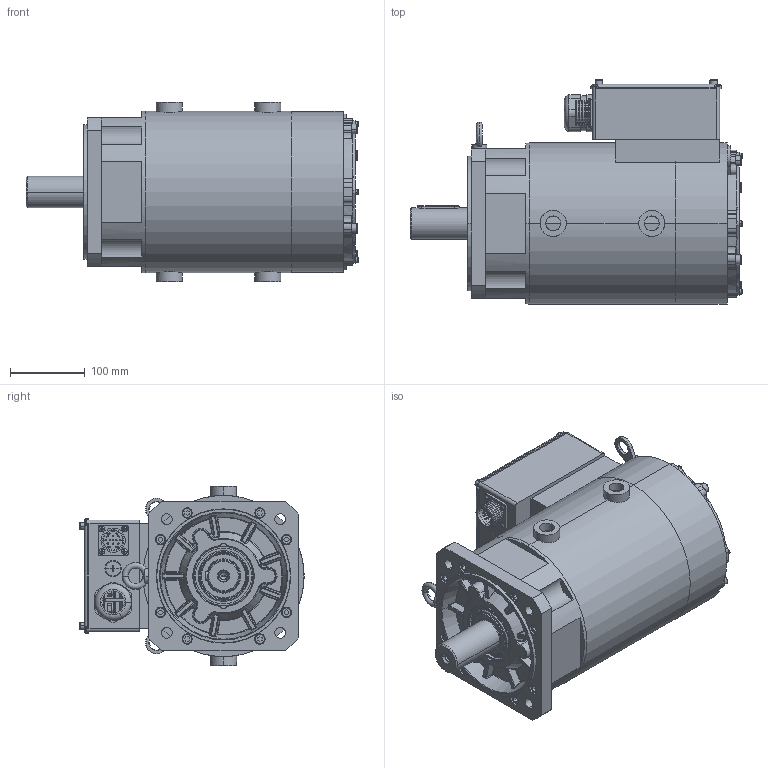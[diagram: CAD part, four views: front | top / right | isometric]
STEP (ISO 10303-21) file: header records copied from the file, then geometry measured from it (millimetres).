
FILE_DESCRIPTION((''),'2;1');
FILE_NAME('11101-02116_SW0002','2026-03-09T14:15:43',('admin'),(''),'CREO PARAMETRIC BY PTC INC, 2019080','CREO PARAMETRIC BY PTC INC, 2019080','');
FILE_SCHEMA(('CONFIG_CONTROL_DESIGN'));
Length unit declared in the file: millimetre
Products named in the file (1): 11101-02116_SW0002
Bounding box: 445 x 300.5 x 240 mm (x, y, z)
Surface area: 1022069.2 mm2 (no closed solid volume)
Topology: 0 solids, 93 shells, 1446 faces, 5325 edges, 3892 vertices
Faces by surface type: plane 624, cylinder 513, torus 105, cone 100, bspline 84, sphere 20
Entity records: 67076 total; most frequent: CARTESIAN_POINT 22155, DIRECTION 9500, ORIENTED_EDGE 8272, EDGE_CURVE 5313, VERTEX_POINT 3892, AXIS2_PLACEMENT_3D 3241, VECTOR 3018, LINE 3018
